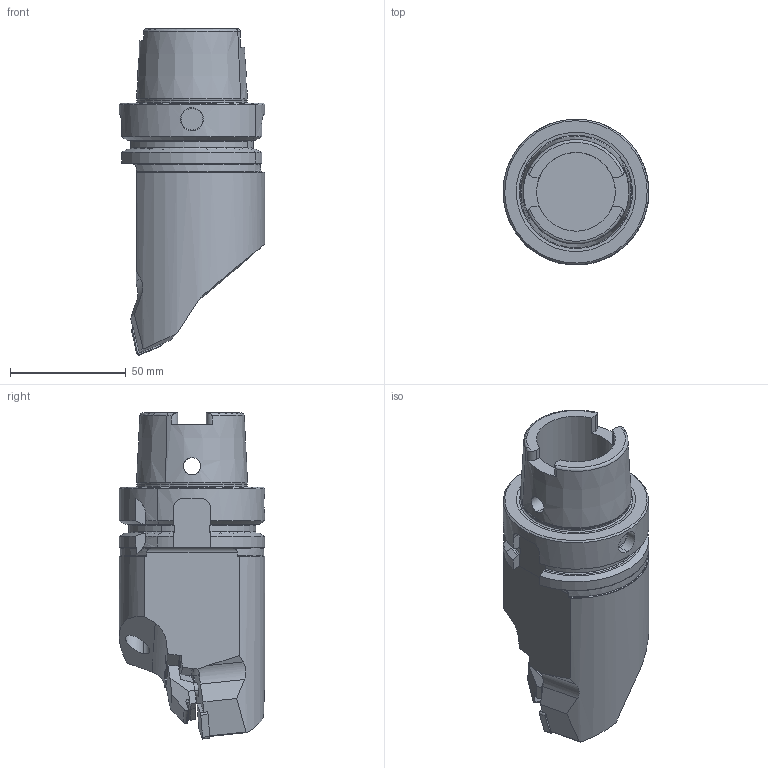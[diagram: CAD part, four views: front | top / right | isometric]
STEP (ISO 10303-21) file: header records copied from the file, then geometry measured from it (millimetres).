
FILE_DESCRIPTION(('CATIA V5 STEP','CAx-IF Rec.Pracs.--- Model Styling and Organization---1.2---2011-12-15'),'2;1');
FILE_NAME('\\nas01\drv1\utils\eitdev\rte\eit\transmagicconvert\db\out\636007316512412915\\3602385-D-B.stp','2016-06-05T10:54:29+00:00',('none'),('none'),'CATIA Version 5 Release 21 SP 5 (IN-10)','CATIA V5 STEP AP214','none');
FILE_SCHEMA(('AUTOMOTIVE_DESIGN { 1 0 10303 214 1 1 1 1 }'));
Length unit declared in the file: millimetre
Products named in the file (1): HSK A63WH-MULNR-J12MW
Bounding box: 62.96 x 62.97 x 140.89 mm (x, y, z)
Volume: 245780.9 mm3; surface area: 34527.6 mm2
Topology: 1 solids, 1 shells, 231 faces, 669 edges, 442 vertices
Faces by surface type: plane 119, cylinder 63, torus 25, cone 18, bspline 6
Entity records: 8028 total; most frequent: CARTESIAN_POINT 2540, ORIENTED_EDGE 1338, DIRECTION 812, EDGE_CURVE 669, VERTEX_POINT 442, VECTOR 363, LINE 363, AXIS2_PLACEMENT_3D 305
